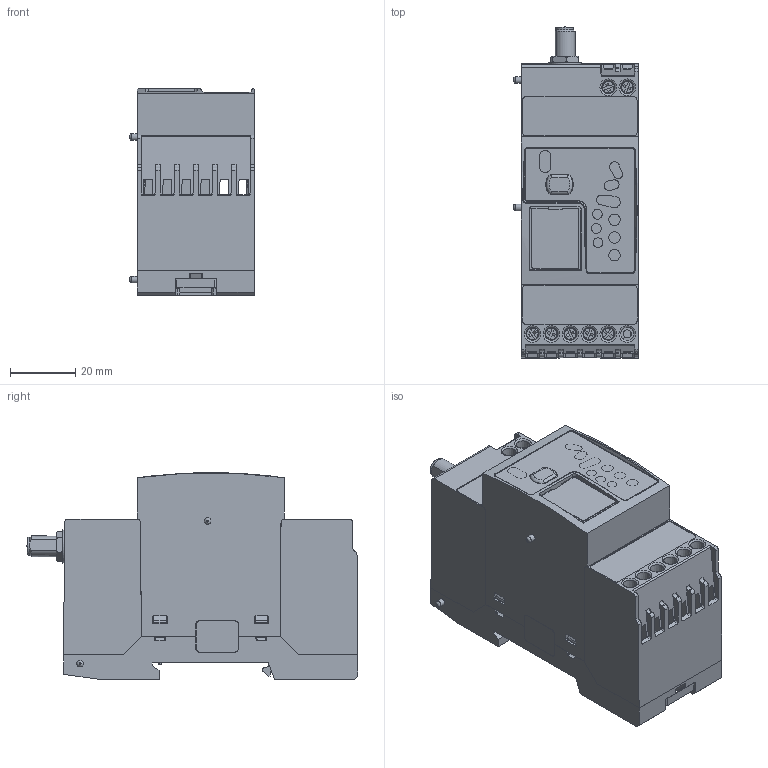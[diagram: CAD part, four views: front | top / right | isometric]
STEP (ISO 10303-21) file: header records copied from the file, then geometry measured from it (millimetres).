
FILE_DESCRIPTION(/* description */ (''),/* implementation_level */ '2;1');
FILE_NAME(/* name */ 'Z:\Meccanica\UWPAM1US1L1X\Shrinkwrap\UWPAM1US1L1X_Shrinkwrap_1.stp',/* time_stamp */ '2019-09-06T12:12:24+02:00',/* author */ ('ddecol'),/* organization */ (''),/* preprocessor_version */ 'ST-DEVELOPER v17.2',/* originating_system */ 'Autodesk Inventor 2019',/* authorisation */ '');
FILE_SCHEMA (('AUTOMOTIVE_DESIGN { 1 0 10303 214 3 1 1 }'));
Length unit declared in the file: millimetre
Products named in the file (1): UWPAM1US1L1X_Shrinkwrap_1
Bounding box: 38.27 x 101.44 x 63.18 mm (x, y, z)
Surface area: 34990.8 mm2 (no closed solid volume)
Topology: 0 solids, 49 shells, 724 faces, 3017 edges, 2267 vertices
Faces by surface type: plane 418, cylinder 220, torus 34, cone 32, bspline 16, sphere 4
Full cylindrical faces by diameter (mm): 0.92 x1, 1.27 x1, 1.5 x2, 2 x4, 2.2 x9, 2.4 x1, 3 x9, 3.85 x7, 3.9 x1, 4.63 x1, 5.39 x1, 5.766 x1, 10.15 x1
Entity records: 33555 total; most frequent: CARTESIAN_POINT 8086, DIRECTION 5055, ORIENTED_EDGE 4597, EDGE_CURVE 3012, VERTEX_POINT 2267, LINE 2099, VECTOR 2099, AXIS2_PLACEMENT_3D 1478
